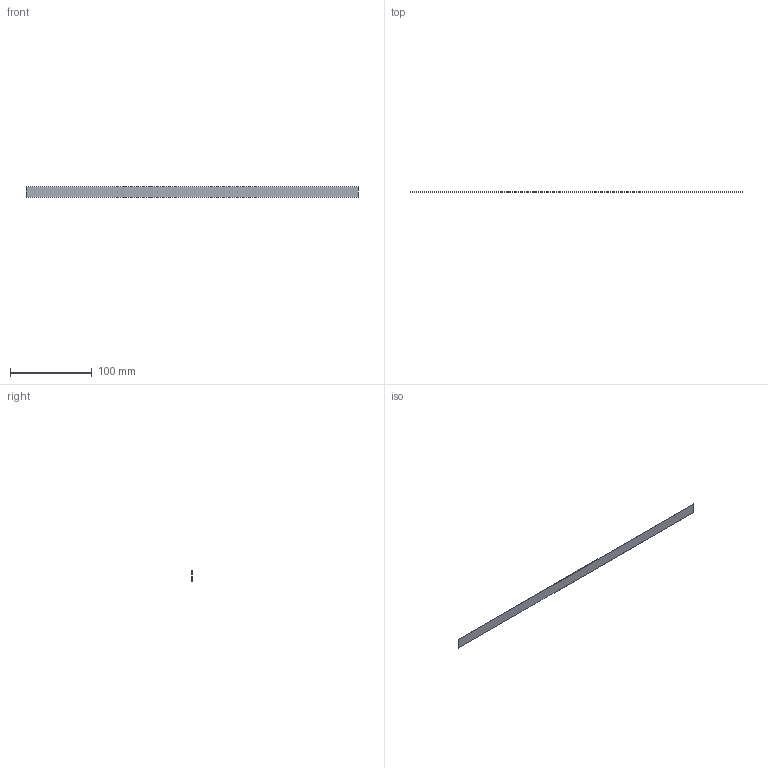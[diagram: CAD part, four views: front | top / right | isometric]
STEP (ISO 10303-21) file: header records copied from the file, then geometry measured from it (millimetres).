
FILE_DESCRIPTION (( 'STEP AP214' ), '1' );
FILE_NAME ('0.5x16inch_VHB_tape_strip-70006291440.step', '2025-12-23T15:51:34', ( '' ), ( '' ), 'SwSTEP 2.0', 'SolidWorks 2026', '' );
FILE_SCHEMA (( 'AUTOMOTIVE_DESIGN' ));
Length unit declared in the file: inch
Products named in the file (1): 0.5x16inch_VHB_tape_strip-70006291440
Bounding box: 406.4 x 0.25 x 12.7 mm (x, y, z)
Volume: 1311 mm3; surface area: 10535.5 mm2
Topology: 1 solids, 1 shells, 6 faces, 12 edges, 8 vertices
Faces by surface type: plane 6
Entity records: 183 total; most frequent: CARTESIAN_POINT 27, DIRECTION 26, ORIENTED_EDGE 24, VECTOR 12, EDGE_CURVE 12, LINE 12, VERTEX_POINT 8, AXIS2_PLACEMENT_3D 7
